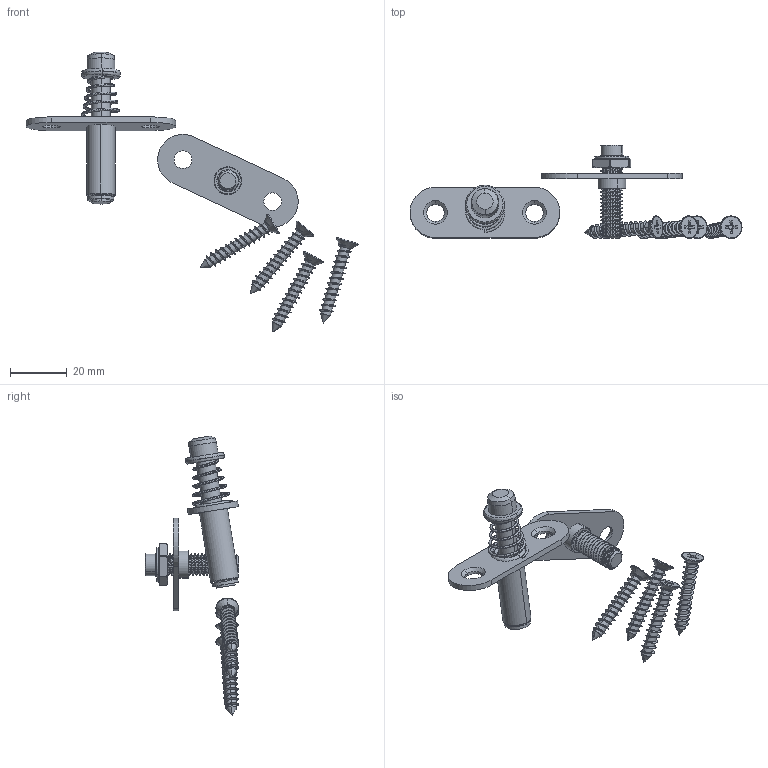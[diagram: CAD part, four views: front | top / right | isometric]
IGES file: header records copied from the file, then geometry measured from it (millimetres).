
Start section: 3D InterOp IGES (v. 2022 1.0.1), Spatial Corp. Copyright (c) 1999-2020.
Global section: file name: F142-B_15.08.192-0 Invisible Pivot Hinge W_Spring Tention 360DG Rotation Steel.igs; native system: Spatial Corp.; preprocessor: 3D InterOp GENERIC/IGES 3.0; author: Noname; organization: Noname; date: 20251208.172137; units: millimetre
Bounding box: 117.4 x 32.9 x 98.93 mm (x, y, z)
Volume: 9750.5 mm3; surface area: 11944.7 mm2
Topology: 9 solids, 9 shells, 487 faces, 1324 edges, 857 vertices
Faces by surface type: cylinder 302, extrusion 89, cone 38, revolution 30, bspline 28
